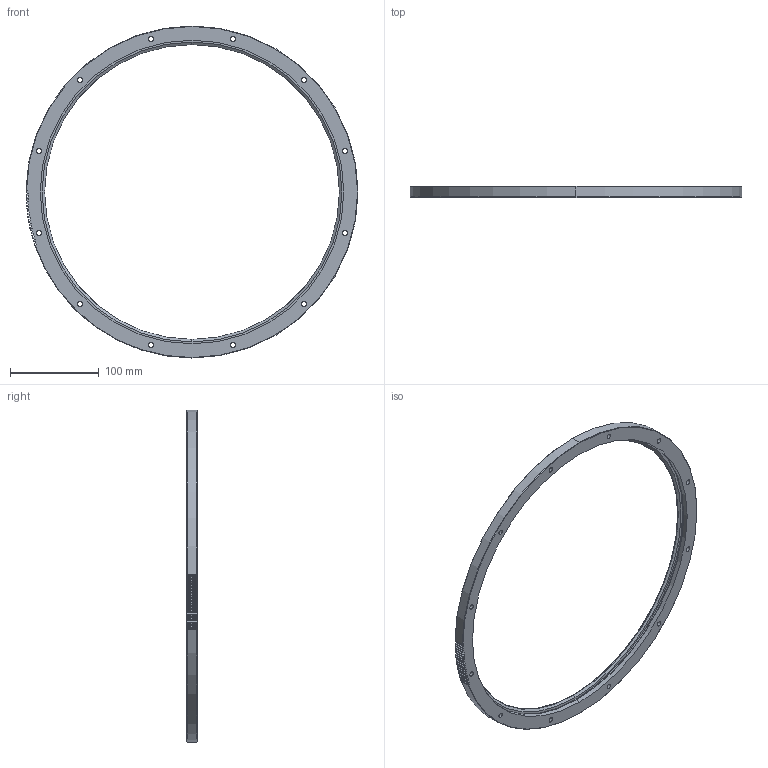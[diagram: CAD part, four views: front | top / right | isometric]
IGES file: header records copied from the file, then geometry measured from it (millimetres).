
Start section: 3D InterOp IGES (v. 2020 1.0.1), Spatial Corp. Copyright (c) 1999-2017.
Global section: file name: ris_374_r360_p.igs; native system: Spatial Corp.; preprocessor: 3D InterOp ACIS/IGES; author: TraceParts; organization: TraceParts S.A.; date: 20220624.062306; units: millimetre
Bounding box: 374 x 12.25 x 374 mm (x, y, z)
Surface area: 75154.2 mm2 (no closed solid volume)
Topology: 0 solids, 0 shells, 227 faces, 1250 edges, 1250 vertices
Faces by surface type: extrusion 118, revolution 109
